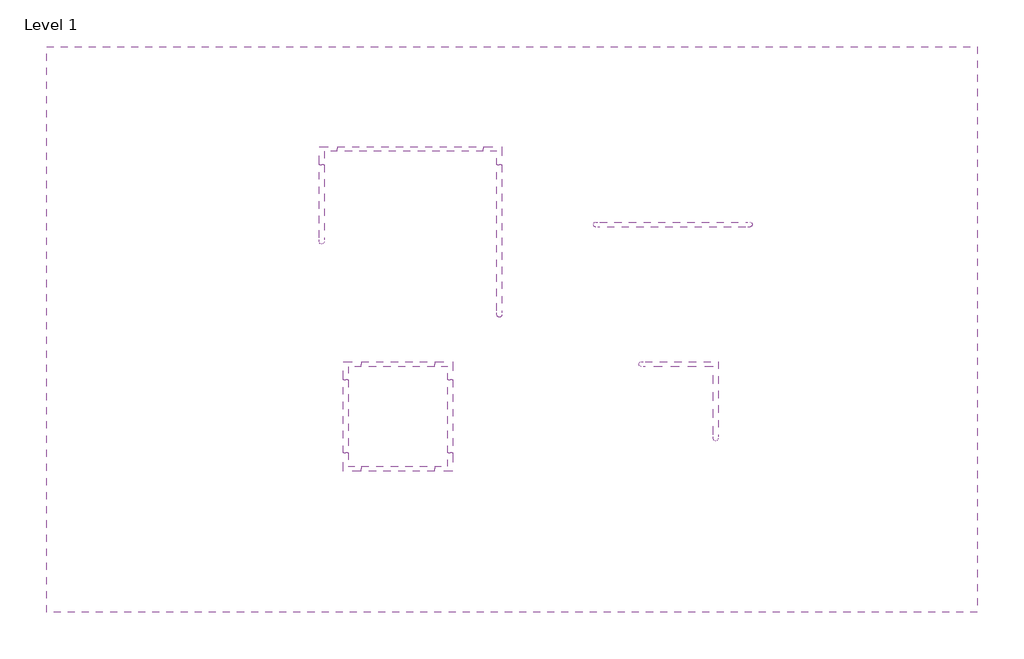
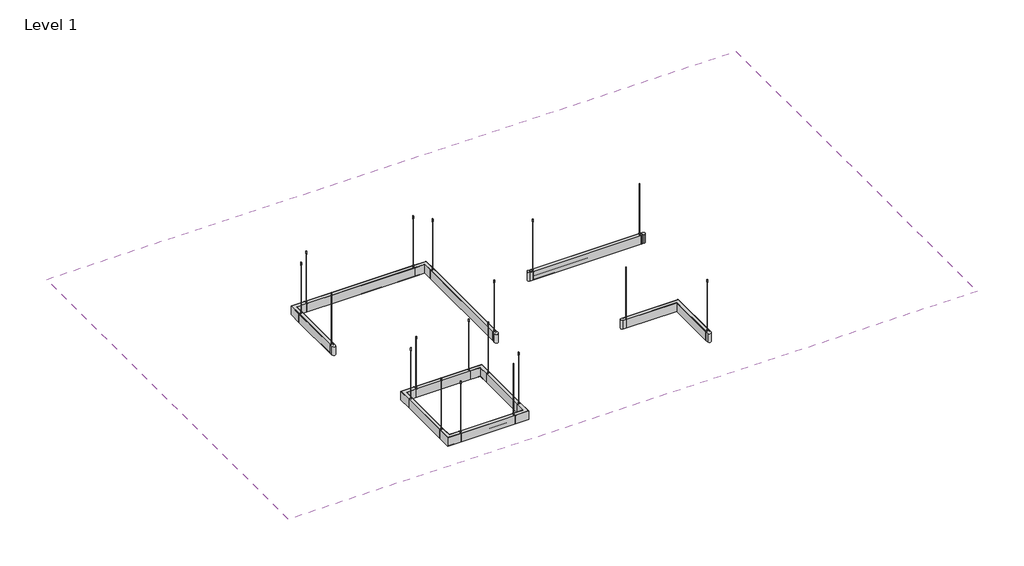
# One storey: 15 light fixtures, 1 covering.
"""IFC4 building model written with IfcOpenShell, lengths in millimetres."""

from ifc_helpers import new_model, si_unit, frame, origin, place, context, project, spatial, polyline, outline, extrude, transform, mapped, element, save
from components import light_fixture_935129ff, light_fixture_302b4e2d, light_fixture_c50b9ad0, light_fixture_ec65e80f, light_fixture_22d31b18, corner_207d466a, corner_59c24696

model = new_model("IFC4")

# Units and contexts
model_context = context("Model", 3, world=origin())
ifc_project = project(units=[si_unit("LENGTHUNIT", "METRE", prefix="MILLI")], contexts=[model_context])

# Site, building, storey
site = spatial("IfcSite", under=ifc_project)
building = spatial("IfcBuilding", under=site)
storey = spatial("IfcBuildingStorey", under=building, Name="Level 1", Elevation=0.0)

# Covering
placement = place(None, origin())
element("IfcCovering", 1, ObjectType="2' x 4' ACT System", at=placement, inside=storey, context=model_context, shape_type="SweptSolid", body=[
    extrude(outline(polyline([(-4065.5199774, 6283.1270347), (3706.8800226, 6283.1270347), (3706.8800226, 1558.7270347), (-4065.5199774, 1558.7270347), (-4065.5199774, 6283.1270347)])), frame((0.0, 0.0, 2438.4), z_axis=(0.0, 0.0, 1.0), x_axis=(1.0, 0.0, 0.0)), (0.0, 0.0, 1.0), 57.15),
])

# Light fixtures
light_fixture_shape = light_fixture_935129ff(model_context)
element("IfcLightFixture", 2, ObjectType="Lighting-Pendant-Betacalco-Block-Straight : BLKP-DT1-PW01-TR01-SL04-EP01-LP020-CR80-CTA40", at=placement, inside=storey, context=model_context, shape_type="MappedRepresentation", body=[
    mapped(light_fixture_shape, transform((1162.6706981, 4796.8354386, 2438.4), x_axis=(1.0, 0.0, 0.0), y_axis=(0.0, -1.0, 0.0), z_axis=(0.0, 0.0, -1.0))),
])
light_fixture_2_shape = light_fixture_302b4e2d(model_context)
element("IfcLightFixture", 3, ObjectType="Lighting-Pendant-Betacalco-Block-Straight : BLKP-DT1-PW01-TR01-SL04-EP01-LP020-CR80-CTA40", at=placement, inside=storey, context=model_context, shape_type="MappedRepresentation", body=[
    mapped(light_fixture_2_shape, transform((-1026.8773334, 5427.9194774, 2438.4), x_axis=(1.0, 0.0, 0.0), y_axis=(0.0, -1.0, 0.0), z_axis=(0.0, 0.0, -1.0))),
])
light_fixture_3_shape = light_fixture_c50b9ad0(model_context)
element("IfcLightFixture", 4, ObjectType="Lighting-Pendant-Betacalco-Block-Straight : BLKP-DT1-PW01-TR01-SL04-EP01-LP020-CR80-CTA40", at=placement, inside=storey, context=model_context, shape_type="MappedRepresentation", body=[
    mapped(light_fixture_3_shape, transform((-1768.2398334, 4991.3569774, 2438.4), x_axis=(0.0, -1.0, 0.0), y_axis=(-1.0, 0.0, 0.0), z_axis=(0.0, 0.0, -1.0))),
])
light_fixture_4_shape = light_fixture_ec65e80f(model_context)
element("IfcLightFixture", 5, ObjectType="Lighting-Pendant-Betacalco-Block-Straight : BLKP-DT1-PW01-TR01-SL04-EP01-LP020-CR80-CTA40", at=placement, inside=storey, context=model_context, shape_type="MappedRepresentation", body=[
    mapped(light_fixture_4_shape, transform((-285.5148334, 4686.5569774, 2438.4), x_axis=(0.0, -1.0, 0.0), y_axis=(-1.0, 0.0, 0.0), z_axis=(0.0, 0.0, -1.0))),
])
light_fixture_5_shape = light_fixture_22d31b18(model_context)
element("IfcLightFixture", 6, ObjectType="Lighting-Pendant-Betacalco-Block-Straight : BLKP-DT1-PW01-TR01-SL04-EP01-LP020-CR80-CTA40", at=placement, inside=storey, context=model_context, shape_type="MappedRepresentation", body=[
    mapped(light_fixture_5_shape, transform((-1131.1191336, 3632.0120741, 2438.4), x_axis=(1.0, 0.0, 0.0), y_axis=(0.0, -1.0, 0.0), z_axis=(0.0, 0.0, -1.0))),
])
element("IfcLightFixture", 7, ObjectType="Lighting-Pendant-Betacalco-Block-Straight : BLKP-DT1-PW01-TR01-SL04-EP01-LP020-CR80-CTA40", at=placement, inside=storey, context=model_context, shape_type="MappedRepresentation", body=[
    mapped(light_fixture_5_shape, transform((-1567.6816336, 3195.4495741, 2438.4), x_axis=(0.0, -1.0, 0.0), y_axis=(-1.0, 0.0, 0.0), z_axis=(0.0, 0.0, -1.0))),
])
element("IfcLightFixture", 8, ObjectType="Lighting-Pendant-Betacalco-Block-Straight : BLKP-DT1-PW01-TR01-SL04-EP01-LP020-CR80-CTA40", at=placement, inside=storey, context=model_context, shape_type="MappedRepresentation", body=[
    mapped(light_fixture_5_shape, transform((-694.5566336, 3195.4495741, 2438.4), x_axis=(0.0, -1.0, 0.0), y_axis=(-1.0, 0.0, 0.0), z_axis=(0.0, 0.0, -1.0))),
])
element("IfcLightFixture", 9, ObjectType="Lighting-Pendant-Betacalco-Block-Straight : BLKP-DT1-PW01-TR01-SL04-EP01-LP020-CR80-CTA40", at=placement, inside=storey, context=model_context, shape_type="MappedRepresentation", body=[
    mapped(light_fixture_5_shape, transform((-1131.1191336, 2758.8870741, 2438.4), x_axis=(1.0, 0.0, 0.0), y_axis=(0.0, -1.0, 0.0), z_axis=(0.0, 0.0, -1.0))),
])
corner_shape = corner_207d466a(model_context)
element("IfcLightFixture", 10, ObjectType="Lighting-Pendant-Betacalco-Block-Corner : Corner", at=placement, inside=storey, context=model_context, shape_type="MappedRepresentation", body=[
    mapped(corner_shape, transform((1520.9916463, 3632.0120741, 2438.4), x_axis=(-1.0, 0.0, 0.0), y_axis=(0.0, 1.0, 0.0), z_axis=(0.0, 0.0, -1.0))),
])
corner_2_shape = corner_59c24696(model_context)
element("IfcLightFixture", 11, ObjectType="Lighting-Pendant-Betacalco-Block-Corner : Corner", at=placement, inside=storey, context=model_context, shape_type="MappedRepresentation", body=[
    mapped(corner_2_shape, transform((-1768.2398334, 5427.9194774, 2438.4), x_axis=(0.0, -1.0, 0.0), y_axis=(-1.0, 0.0, 0.0), z_axis=(0.0, 0.0, -1.0))),
])
element("IfcLightFixture", 12, ObjectType="Lighting-Pendant-Betacalco-Block-Corner : Corner", at=placement, inside=storey, context=model_context, shape_type="MappedRepresentation", body=[
    mapped(corner_2_shape, transform((-285.5148334, 5427.9194774, 2438.4), x_axis=(-1.0, 0.0, 0.0), y_axis=(0.0, 1.0, 0.0), z_axis=(0.0, 0.0, -1.0))),
])
element("IfcLightFixture", 13, ObjectType="Lighting-Pendant-Betacalco-Block-Corner : Corner", at=placement, inside=storey, context=model_context, shape_type="MappedRepresentation", body=[
    mapped(corner_2_shape, transform((-1567.6816336, 3632.0120741, 2438.4), x_axis=(0.0, -1.0, 0.0), y_axis=(-1.0, 0.0, 0.0), z_axis=(0.0, 0.0, -1.0))),
])
element("IfcLightFixture", 14, ObjectType="Lighting-Pendant-Betacalco-Block-Corner : Corner", at=placement, inside=storey, context=model_context, shape_type="MappedRepresentation", body=[
    mapped(corner_2_shape, transform((-694.5566336, 3632.0120741, 2438.4), x_axis=(-1.0, 0.0, 0.0), y_axis=(0.0, 1.0, 0.0), z_axis=(0.0, 0.0, -1.0))),
])
element("IfcLightFixture", 15, ObjectType="Lighting-Pendant-Betacalco-Block-Corner : Corner", at=placement, inside=storey, context=model_context, shape_type="MappedRepresentation", body=[
    mapped(corner_2_shape, transform((-1567.6816336, 2758.8870741, 2438.4), x_axis=(1.0, 0.0, 0.0), y_axis=(0.0, -1.0, 0.0), z_axis=(0.0, 0.0, -1.0))),
])
element("IfcLightFixture", 16, ObjectType="Lighting-Pendant-Betacalco-Block-Corner : Corner", at=placement, inside=storey, context=model_context, shape_type="MappedRepresentation", body=[
    mapped(corner_2_shape, transform((-694.5566336, 2758.8870741, 2438.4), x_axis=(0.0, 1.0, 0.0), y_axis=(1.0, 0.0, 0.0), z_axis=(0.0, 0.0, -1.0))),
])

save(model, "model.ifc")
